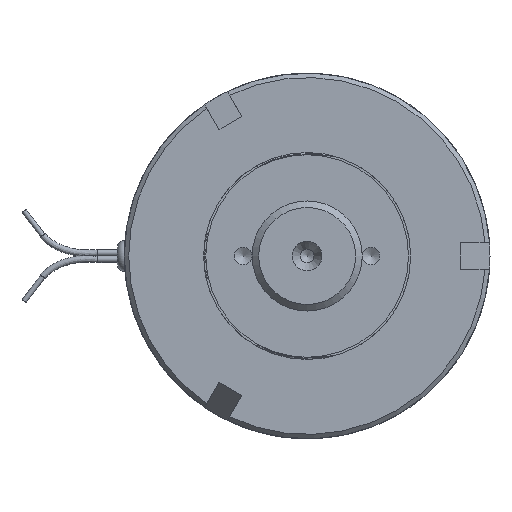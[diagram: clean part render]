
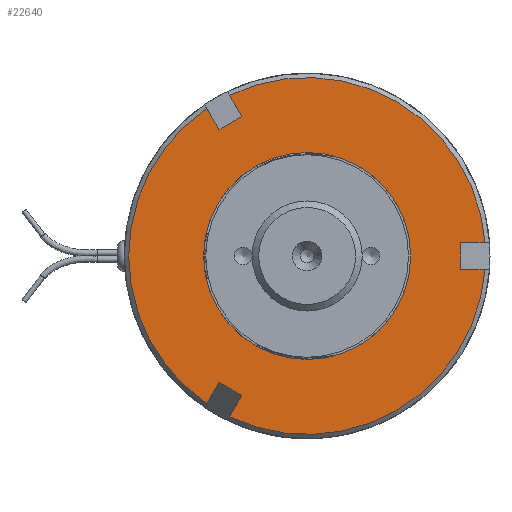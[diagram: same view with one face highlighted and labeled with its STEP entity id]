
A CAD part, left-side view. The second image highlights one B-rep face of the part: STEP entity #22640.
In plain terms, the highlighted planar face has unit normal (-1, 0, 0).
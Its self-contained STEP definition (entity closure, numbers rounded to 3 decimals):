
#346=FACE_BOUND('',#2330,.T.);
#533=PLANE('',#24789);
#1136=FACE_OUTER_BOUND('',#2329,.T.);
#2329=EDGE_LOOP('',(#16558,#16559,#16560,#16561,#16562,#16563,#16564,#16565,
#16566,#16567,#16568,#16569));
#2330=EDGE_LOOP('',(#16570,#16571));
#3664=LINE('',#38968,#4876);
#3666=LINE('',#38975,#4878);
#3667=LINE('',#38981,#4879);
#3669=LINE('',#38986,#4881);
#3671=LINE('',#38993,#4883);
#3672=LINE('',#38999,#4884);
#3674=LINE('',#39015,#4886);
#3676=LINE('',#39019,#4888);
#3677=LINE('',#39021,#4889);
#4876=VECTOR('',#30177,10.);
#4878=VECTOR('',#30181,10.);
#4879=VECTOR('',#30184,10.);
#4881=VECTOR('',#30188,10.);
#4883=VECTOR('',#30192,10.);
#4884=VECTOR('',#30195,10.);
#4886=VECTOR('',#30207,10.);
#4888=VECTOR('',#30211,10.);
#4889=VECTOR('',#30214,10.);
#6412=CIRCLE('',#24783,40.5);
#6413=CIRCLE('',#24785,40.5);
#6414=CIRCLE('',#24790,40.5);
#6415=CIRCLE('',#24791,23.5);
#6416=CIRCLE('',#24792,23.5);
#8797=VERTEX_POINT('',#38965);
#8798=VERTEX_POINT('',#38967);
#8799=VERTEX_POINT('',#38973);
#8800=VERTEX_POINT('',#38977);
#8801=VERTEX_POINT('',#38983);
#8802=VERTEX_POINT('',#38985);
#8803=VERTEX_POINT('',#38991);
#8804=VERTEX_POINT('',#38995);
#8805=VERTEX_POINT('',#39001);
#8806=VERTEX_POINT('',#39007);
#8807=VERTEX_POINT('',#39013);
#8808=VERTEX_POINT('',#39017);
#8809=VERTEX_POINT('',#39024);
#8810=VERTEX_POINT('',#39025);
#11607=EDGE_CURVE('',#8798,#8797,#3664,.T.);
#11610=EDGE_CURVE('',#8797,#8799,#3666,.T.);
#11612=EDGE_CURVE('',#8799,#8800,#3667,.T.);
#11614=EDGE_CURVE('',#8802,#8801,#3669,.T.);
#11617=EDGE_CURVE('',#8801,#8803,#3671,.T.);
#11619=EDGE_CURVE('',#8803,#8804,#3672,.T.);
#11620=EDGE_CURVE('',#8798,#8805,#6412,.T.);
#11623=EDGE_CURVE('',#8806,#8804,#6413,.T.);
#11625=EDGE_CURVE('',#8806,#8807,#3674,.T.);
#11627=EDGE_CURVE('',#8807,#8808,#3676,.T.);
#11628=EDGE_CURVE('',#8808,#8805,#3677,.T.);
#11629=EDGE_CURVE('',#8802,#8800,#6414,.T.);
#11630=EDGE_CURVE('',#8809,#8810,#6415,.T.);
#11631=EDGE_CURVE('',#8810,#8809,#6416,.T.);
#16558=ORIENTED_EDGE('',*,*,#11612,.T.);
#16559=ORIENTED_EDGE('',*,*,#11629,.F.);
#16560=ORIENTED_EDGE('',*,*,#11614,.T.);
#16561=ORIENTED_EDGE('',*,*,#11617,.T.);
#16562=ORIENTED_EDGE('',*,*,#11619,.T.);
#16563=ORIENTED_EDGE('',*,*,#11623,.F.);
#16564=ORIENTED_EDGE('',*,*,#11625,.T.);
#16565=ORIENTED_EDGE('',*,*,#11627,.T.);
#16566=ORIENTED_EDGE('',*,*,#11628,.T.);
#16567=ORIENTED_EDGE('',*,*,#11620,.F.);
#16568=ORIENTED_EDGE('',*,*,#11607,.T.);
#16569=ORIENTED_EDGE('',*,*,#11610,.T.);
#16570=ORIENTED_EDGE('',*,*,#11630,.T.);
#16571=ORIENTED_EDGE('',*,*,#11631,.T.);
#22640=ADVANCED_FACE('',(#1136,#346),#533,.T.);
#24783=AXIS2_PLACEMENT_3D('',#39002,#30198,#30199);
#24785=AXIS2_PLACEMENT_3D('',#39011,#30202,#30203);
#24789=AXIS2_PLACEMENT_3D('',#39022,#30215,#30216);
#24790=AXIS2_PLACEMENT_3D('',#39023,#30217,#30218);
#24791=AXIS2_PLACEMENT_3D('',#39026,#30219,#30220);
#24792=AXIS2_PLACEMENT_3D('',#39027,#30221,#30222);
#30177=DIRECTION('',(0.,-0.5,-0.866));
#30181=DIRECTION('',(0.,0.866,-0.5));
#30184=DIRECTION('',(0.,0.5,0.866));
#30188=DIRECTION('',(0.,-0.5,0.866));
#30192=DIRECTION('',(0.,-0.866,-0.5));
#30195=DIRECTION('',(0.,0.5,-0.866));
#30198=DIRECTION('center_axis',(1.,0.,0.));
#30199=DIRECTION('ref_axis',(0.,-1.,0.));
#30202=DIRECTION('center_axis',(1.,0.,0.));
#30203=DIRECTION('ref_axis',(0.,-1.,0.));
#30207=DIRECTION('',(0.,1.,0.));
#30211=DIRECTION('',(0.,0.,1.));
#30214=DIRECTION('',(0.,-1.,0.));
#30215=DIRECTION('center_axis',(-1.,0.,0.));
#30216=DIRECTION('ref_axis',(0.,0.,1.));
#30217=DIRECTION('center_axis',(1.,0.,0.));
#30218=DIRECTION('ref_axis',(0.,-1.,0.));
#30219=DIRECTION('center_axis',(1.,0.,0.));
#30220=DIRECTION('ref_axis',(0.,0.,-1.));
#30221=DIRECTION('center_axis',(1.,0.,0.));
#30222=DIRECTION('ref_axis',(0.,0.,-1.));
#38965=CARTESIAN_POINT('',(-22.25,14.823,31.675));
#38967=CARTESIAN_POINT('',(-22.25,17.596,36.478));
#38968=CARTESIAN_POINT('',(-22.25,13.14,28.759));
#38973=CARTESIAN_POINT('',(-22.25,20.02,28.675));
#38975=CARTESIAN_POINT('',(-22.25,32.984,21.19));
#38977=CARTESIAN_POINT('',(-22.25,22.792,33.478));
#38981=CARTESIAN_POINT('',(-22.25,18.336,25.759));
#38983=CARTESIAN_POINT('',(-22.25,20.02,-28.675));
#38985=CARTESIAN_POINT('',(-22.25,22.792,-33.478));
#38986=CARTESIAN_POINT('',(-22.25,18.336,-25.759));
#38991=CARTESIAN_POINT('',(-22.25,14.823,-31.675));
#38993=CARTESIAN_POINT('',(-22.25,32.984,-21.19));
#38995=CARTESIAN_POINT('',(-22.25,17.596,-36.478));
#38999=CARTESIAN_POINT('',(-22.25,13.14,-28.759));
#39001=CARTESIAN_POINT('',(-22.25,-40.389,3.));
#39002=CARTESIAN_POINT('Origin',(-22.25,0.,0.));
#39007=CARTESIAN_POINT('',(-22.25,-40.389,-3.));
#39011=CARTESIAN_POINT('Origin',(-22.25,0.,0.));
#39013=CARTESIAN_POINT('',(-22.25,-34.843,-3.));
#39015=CARTESIAN_POINT('',(-22.25,-0.351,-3.));
#39017=CARTESIAN_POINT('',(-22.25,-34.843,3.));
#39019=CARTESIAN_POINT('',(-22.25,-34.843,0.));
#39021=CARTESIAN_POINT('',(-22.25,-0.351,3.));
#39022=CARTESIAN_POINT('Origin',(-22.25,41.5,0.));
#39023=CARTESIAN_POINT('Origin',(-22.25,0.,0.));
#39024=CARTESIAN_POINT('',(-22.25,23.5,0.));
#39025=CARTESIAN_POINT('',(-22.25,-23.5,0.));
#39026=CARTESIAN_POINT('Origin',(-22.25,0.,0.));
#39027=CARTESIAN_POINT('Origin',(-22.25,0.,0.));
